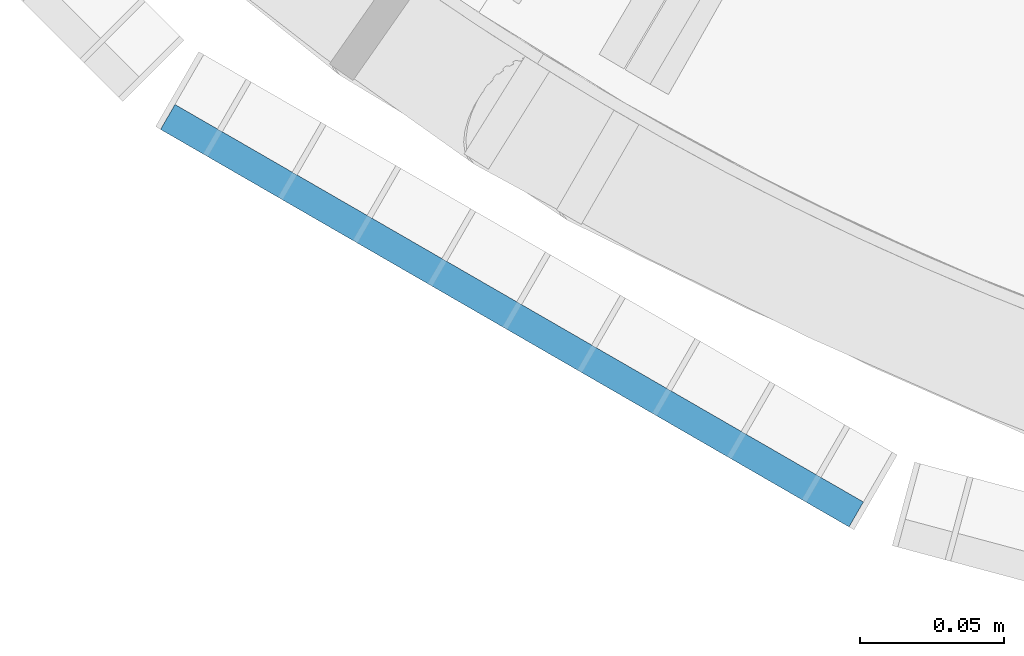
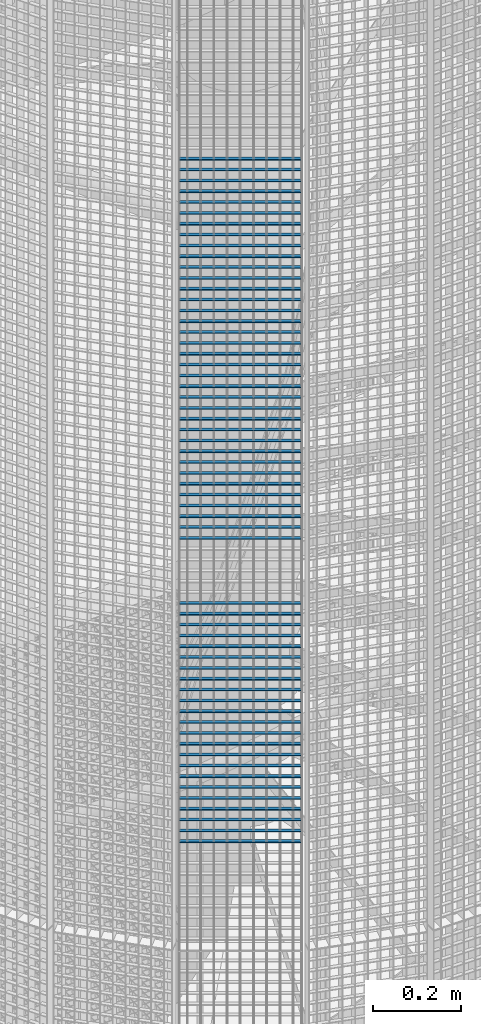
# One storey, part 147 of 1183: 59 beams, 1 element without a shape of its own.
"""IFC2X3 building model written with IfcOpenShell, lengths in millimetres."""

from ifc_helpers import new_model, si_unit, frame, origin_with_axes, origin_2d_with_axis, place, context, subcontext, project, spatial, rectangle, extrude, material, type_object, element, aggregate, save


model = new_model("IFC2X3")

# Units and contexts
model_context = context("Model", 3, precision=1e-05, world=origin_with_axes())
body_context = subcontext(model_context, "Body", "Model", "MODEL_VIEW")
ifc_project = project(units=[si_unit("LENGTHUNIT", "METRE", prefix="MILLI"), si_unit("AREAUNIT", "SQUARE_METRE"), si_unit("VOLUMEUNIT", "CUBIC_METRE"), si_unit("MASSUNIT", "GRAM", prefix="KILO"), si_unit("TIMEUNIT", "SECOND"), si_unit("PLANEANGLEUNIT", "RADIAN"), si_unit("SOLIDANGLEUNIT", "STERADIAN"), si_unit("THERMODYNAMICTEMPERATUREUNIT", "DEGREE_CELSIUS"), si_unit("LUMINOUSINTENSITYUNIT", "LUMEN")], contexts=[model_context])

# Site, building, storey
site_placement = place(None, origin_with_axes())
site = spatial("IfcSite", under=ifc_project, at=site_placement, Name="Undefined", CompositionType="ELEMENT")
building_placement = place(site_placement, origin_with_axes())
building = spatial("IfcBuilding", under=site, at=building_placement, Name="Undefined", CompositionType="ELEMENT")
storey_placement = place(building_placement, origin_with_axes())
storey = spatial("IfcBuildingStorey", under=building, at=storey_placement, Name="Undefined", CompositionType="ELEMENT", Elevation=0.0)

# Assembly, beams
assembly_placement = place(storey_placement, origin_with_axes())
assembly = element("IfcElementAssembly", 1, at=assembly_placement, inside=storey, Name="BORDURE", AssemblyPlace="NOTDEFINED", PredefinedType="NOTDEFINED")
ifc_material = material(Name="STEEL/S235JR")
beam_type = type_object("IfcBeamType", Name="PL2*10", PredefinedType="NOTDEFINED")
beam_1_placement = place(assembly_placement, frame((-676.248044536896, -895.303964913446, 14190.0), z_axis=(-0.49999999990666, -0.866025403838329, 0.0), x_axis=(0.866025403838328, -0.49999999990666, 0.0)))
beam_1 = element("IfcBeam", 2, at=beam_1_placement, type_object=beam_type, material=ifc_material, Name="ENTRETOISE", context=body_context, shape_type="SweptSolid", body=[
    extrude(rectangle(XDim=2.0, YDim=10.0, at=origin_2d_with_axis()), frame((275.999999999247, 9.09494701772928e-13, 1.53210777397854e-14), z_axis=(-1.0, 0.0, 0.0), x_axis=(0.0, -1.0, 0.0)), (0.0, 0.0, 1.0), 276.0),
])
beam_2_placement = place(assembly_placement, frame((-676.248044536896, -895.303964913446, 14160.0), z_axis=(-0.49999999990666, -0.866025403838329, 0.0), x_axis=(0.866025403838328, -0.49999999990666, 0.0)))
beam_2 = element("IfcBeam", 3, at=beam_2_placement, type_object=beam_type, material=ifc_material, Name="ENTRETOISE", context=body_context, shape_type="SweptSolid", body=[
    extrude(rectangle(XDim=2.0, YDim=10.0, at=origin_2d_with_axis()), frame((275.999999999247, 9.09494701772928e-13, 1.53210777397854e-14), z_axis=(-1.0, 0.0, 0.0), x_axis=(0.0, -1.0, 0.0)), (0.0, 0.0, 1.0), 276.0),
])
beam_3_placement = place(assembly_placement, frame((-676.248044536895, -895.303964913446, 14130.0), z_axis=(-0.49999999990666, -0.866025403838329, 0.0), x_axis=(0.866025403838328, -0.49999999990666, 0.0)))
beam_3 = element("IfcBeam", 4, at=beam_3_placement, type_object=beam_type, material=ifc_material, Name="ENTRETOISE", context=body_context, shape_type="SweptSolid", body=[
    extrude(rectangle(XDim=2.0, YDim=10.0, at=origin_2d_with_axis()), frame((275.999999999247, 9.09494701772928e-13, 1.53210777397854e-14), z_axis=(-1.0, 0.0, 0.0), x_axis=(0.0, -1.0, 0.0)), (0.0, 0.0, 1.0), 276.0),
])
beam_4_placement = place(assembly_placement, frame((-676.248044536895, -895.303964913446, 14100.0), z_axis=(-0.49999999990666, -0.866025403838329, 0.0), x_axis=(0.866025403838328, -0.49999999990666, 0.0)))
beam_4 = element("IfcBeam", 5, at=beam_4_placement, type_object=beam_type, material=ifc_material, Name="ENTRETOISE", context=body_context, shape_type="SweptSolid", body=[
    extrude(rectangle(XDim=2.0, YDim=10.0, at=origin_2d_with_axis()), frame((275.999999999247, 9.09494701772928e-13, 1.53210777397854e-14), z_axis=(-1.0, 0.0, 0.0), x_axis=(0.0, -1.0, 0.0)), (0.0, 0.0, 1.0), 276.0),
])
beam_5_placement = place(assembly_placement, frame((-676.248044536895, -895.303964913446, 14070.0), z_axis=(-0.49999999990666, -0.866025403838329, 0.0), x_axis=(0.866025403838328, -0.49999999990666, 0.0)))
beam_5 = element("IfcBeam", 6, at=beam_5_placement, type_object=beam_type, material=ifc_material, Name="ENTRETOISE", context=body_context, shape_type="SweptSolid", body=[
    extrude(rectangle(XDim=2.0, YDim=10.0, at=origin_2d_with_axis()), frame((275.999999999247, 9.09494701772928e-13, 1.53210777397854e-14), z_axis=(-1.0, 0.0, 0.0), x_axis=(0.0, -1.0, 0.0)), (0.0, 0.0, 1.0), 276.0),
])
beam_6_placement = place(assembly_placement, frame((-676.248044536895, -895.303964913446, 14040.0), z_axis=(-0.49999999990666, -0.866025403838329, 0.0), x_axis=(0.866025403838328, -0.49999999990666, 0.0)))
beam_6 = element("IfcBeam", 7, at=beam_6_placement, type_object=beam_type, material=ifc_material, Name="ENTRETOISE", context=body_context, shape_type="SweptSolid", body=[
    extrude(rectangle(XDim=2.0, YDim=10.0, at=origin_2d_with_axis()), frame((275.999999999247, 9.09494701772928e-13, 1.53210777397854e-14), z_axis=(-1.0, 0.0, 0.0), x_axis=(0.0, -1.0, 0.0)), (0.0, 0.0, 1.0), 276.0),
])
beam_7_placement = place(assembly_placement, frame((-676.248044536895, -895.303964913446, 14010.0), z_axis=(-0.49999999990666, -0.866025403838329, 0.0), x_axis=(0.866025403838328, -0.49999999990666, 0.0)))
beam_7 = element("IfcBeam", 8, at=beam_7_placement, type_object=beam_type, material=ifc_material, Name="ENTRETOISE", context=body_context, shape_type="SweptSolid", body=[
    extrude(rectangle(XDim=2.0, YDim=10.0, at=origin_2d_with_axis()), frame((275.999999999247, 9.09494701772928e-13, 1.53210777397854e-14), z_axis=(-1.0, 0.0, 0.0), x_axis=(0.0, -1.0, 0.0)), (0.0, 0.0, 1.0), 276.0),
])
beam_8_placement = place(assembly_placement, frame((-676.248044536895, -895.303964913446, 13980.0), z_axis=(-0.49999999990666, -0.866025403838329, 0.0), x_axis=(0.866025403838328, -0.49999999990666, 0.0)))
beam_8 = element("IfcBeam", 9, at=beam_8_placement, type_object=beam_type, material=ifc_material, Name="ENTRETOISE", context=body_context, shape_type="SweptSolid", body=[
    extrude(rectangle(XDim=2.0, YDim=10.0, at=origin_2d_with_axis()), frame((275.999999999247, 9.09494701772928e-13, 1.53210777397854e-14), z_axis=(-1.0, 0.0, 0.0), x_axis=(0.0, -1.0, 0.0)), (0.0, 0.0, 1.0), 276.0),
])
beam_9_placement = place(assembly_placement, frame((-676.248044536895, -895.303964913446, 13950.0), z_axis=(-0.49999999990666, -0.866025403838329, 0.0), x_axis=(0.866025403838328, -0.49999999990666, 0.0)))
beam_9 = element("IfcBeam", 10, at=beam_9_placement, type_object=beam_type, material=ifc_material, Name="ENTRETOISE", context=body_context, shape_type="SweptSolid", body=[
    extrude(rectangle(XDim=2.0, YDim=10.0, at=origin_2d_with_axis()), frame((275.999999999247, 9.09494701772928e-13, 1.53210777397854e-14), z_axis=(-1.0, 0.0, 0.0), x_axis=(0.0, -1.0, 0.0)), (0.0, 0.0, 1.0), 276.0),
])
beam_10_placement = place(assembly_placement, frame((-676.248044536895, -895.303964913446, 13920.0), z_axis=(-0.49999999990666, -0.866025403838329, 0.0), x_axis=(0.866025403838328, -0.49999999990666, 0.0)))
beam_10 = element("IfcBeam", 11, at=beam_10_placement, type_object=beam_type, material=ifc_material, Name="ENTRETOISE", context=body_context, shape_type="SweptSolid", body=[
    extrude(rectangle(XDim=2.0, YDim=10.0, at=origin_2d_with_axis()), frame((275.999999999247, 9.09494701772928e-13, 1.53210777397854e-14), z_axis=(-1.0, 0.0, 0.0), x_axis=(0.0, -1.0, 0.0)), (0.0, 0.0, 1.0), 276.0),
])
beam_11_placement = place(assembly_placement, frame((-676.248044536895, -895.303964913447, 13890.0), z_axis=(-0.49999999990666, -0.866025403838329, 0.0), x_axis=(0.866025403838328, -0.49999999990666, 0.0)))
beam_11 = element("IfcBeam", 12, at=beam_11_placement, type_object=beam_type, material=ifc_material, Name="ENTRETOISE", context=body_context, shape_type="SweptSolid", body=[
    extrude(rectangle(XDim=2.0, YDim=10.0, at=origin_2d_with_axis()), frame((275.999999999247, 9.09494701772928e-13, 1.53210777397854e-14), z_axis=(-1.0, 0.0, 0.0), x_axis=(0.0, -1.0, 0.0)), (0.0, 0.0, 1.0), 276.0),
])
beam_12_placement = place(assembly_placement, frame((-676.248044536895, -895.303964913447, 13860.0), z_axis=(-0.49999999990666, -0.866025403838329, 0.0), x_axis=(0.866025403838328, -0.49999999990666, 0.0)))
beam_12 = element("IfcBeam", 13, at=beam_12_placement, type_object=beam_type, material=ifc_material, Name="ENTRETOISE", context=body_context, shape_type="SweptSolid", body=[
    extrude(rectangle(XDim=2.0, YDim=10.0, at=origin_2d_with_axis()), frame((275.999999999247, 9.09494701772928e-13, 1.53210777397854e-14), z_axis=(-1.0, 0.0, 0.0), x_axis=(0.0, -1.0, 0.0)), (0.0, 0.0, 1.0), 276.0),
])
beam_13_placement = place(assembly_placement, frame((-676.248044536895, -895.303964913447, 13830.0), z_axis=(-0.49999999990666, -0.866025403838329, 0.0), x_axis=(0.866025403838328, -0.49999999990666, 0.0)))
beam_13 = element("IfcBeam", 14, at=beam_13_placement, type_object=beam_type, material=ifc_material, Name="ENTRETOISE", context=body_context, shape_type="SweptSolid", body=[
    extrude(rectangle(XDim=2.0, YDim=10.0, at=origin_2d_with_axis()), frame((275.999999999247, 9.09494701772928e-13, 1.53210777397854e-14), z_axis=(-1.0, 0.0, 0.0), x_axis=(0.0, -1.0, 0.0)), (0.0, 0.0, 1.0), 276.0),
])
beam_14_placement = place(assembly_placement, frame((-676.248044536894, -895.303964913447, 13800.0), z_axis=(-0.49999999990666, -0.866025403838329, 0.0), x_axis=(0.866025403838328, -0.49999999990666, 0.0)))
beam_14 = element("IfcBeam", 15, at=beam_14_placement, type_object=beam_type, material=ifc_material, Name="ENTRETOISE", context=body_context, shape_type="SweptSolid", body=[
    extrude(rectangle(XDim=2.0, YDim=10.0, at=origin_2d_with_axis()), frame((275.999999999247, 9.09494701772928e-13, 1.53210777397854e-14), z_axis=(-1.0, 0.0, 0.0), x_axis=(0.0, -1.0, 0.0)), (0.0, 0.0, 1.0), 276.0),
])
beam_15_placement = place(assembly_placement, frame((-676.248044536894, -895.303964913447, 13770.0), z_axis=(-0.49999999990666, -0.866025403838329, 0.0), x_axis=(0.866025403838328, -0.49999999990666, 0.0)))
beam_15 = element("IfcBeam", 16, at=beam_15_placement, type_object=beam_type, material=ifc_material, Name="ENTRETOISE", context=body_context, shape_type="SweptSolid", body=[
    extrude(rectangle(XDim=2.0, YDim=10.0, at=origin_2d_with_axis()), frame((275.999999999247, 9.09494701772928e-13, 1.53210777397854e-14), z_axis=(-1.0, 0.0, 0.0), x_axis=(0.0, -1.0, 0.0)), (0.0, 0.0, 1.0), 276.0),
])
beam_16_placement = place(assembly_placement, frame((-676.248044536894, -895.303964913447, 13740.0), z_axis=(-0.49999999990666, -0.866025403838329, 0.0), x_axis=(0.866025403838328, -0.49999999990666, 0.0)))
beam_16 = element("IfcBeam", 17, at=beam_16_placement, type_object=beam_type, material=ifc_material, Name="ENTRETOISE", context=body_context, shape_type="SweptSolid", body=[
    extrude(rectangle(XDim=2.0, YDim=10.0, at=origin_2d_with_axis()), frame((275.999999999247, 9.09494701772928e-13, 1.53210777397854e-14), z_axis=(-1.0, 0.0, 0.0), x_axis=(0.0, -1.0, 0.0)), (0.0, 0.0, 1.0), 276.0),
])
beam_17_placement = place(assembly_placement, frame((-676.248044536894, -895.303964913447, 13710.0), z_axis=(-0.49999999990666, -0.866025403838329, 0.0), x_axis=(0.866025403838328, -0.49999999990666, 0.0)))
beam_17 = element("IfcBeam", 18, at=beam_17_placement, type_object=beam_type, material=ifc_material, Name="ENTRETOISE", context=body_context, shape_type="SweptSolid", body=[
    extrude(rectangle(XDim=2.0, YDim=10.0, at=origin_2d_with_axis()), frame((275.999999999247, 9.09494701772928e-13, 1.53210777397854e-14), z_axis=(-1.0, 0.0, 0.0), x_axis=(0.0, -1.0, 0.0)), (0.0, 0.0, 1.0), 276.0),
])
beam_18_placement = place(assembly_placement, frame((-676.248044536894, -895.303964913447, 13680.0), z_axis=(-0.49999999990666, -0.866025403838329, 0.0), x_axis=(0.866025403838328, -0.49999999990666, 0.0)))
beam_18 = element("IfcBeam", 19, at=beam_18_placement, type_object=beam_type, material=ifc_material, Name="ENTRETOISE", context=body_context, shape_type="SweptSolid", body=[
    extrude(rectangle(XDim=2.0, YDim=10.0, at=origin_2d_with_axis()), frame((275.999999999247, 9.09494701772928e-13, 1.53210777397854e-14), z_axis=(-1.0, 0.0, 0.0), x_axis=(0.0, -1.0, 0.0)), (0.0, 0.0, 1.0), 276.0),
])
beam_19_placement = place(assembly_placement, frame((-676.248044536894, -895.303964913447, 13650.0), z_axis=(-0.49999999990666, -0.866025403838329, 0.0), x_axis=(0.866025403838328, -0.49999999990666, 0.0)))
beam_19 = element("IfcBeam", 20, at=beam_19_placement, type_object=beam_type, material=ifc_material, Name="ENTRETOISE", context=body_context, shape_type="SweptSolid", body=[
    extrude(rectangle(XDim=2.0, YDim=10.0, at=origin_2d_with_axis()), frame((275.999999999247, 9.09494701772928e-13, 1.53210777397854e-14), z_axis=(-1.0, 0.0, 0.0), x_axis=(0.0, -1.0, 0.0)), (0.0, 0.0, 1.0), 276.0),
])
beam_20_placement = place(assembly_placement, frame((-676.248044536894, -895.303964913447, 13620.0), z_axis=(-0.49999999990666, -0.866025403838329, 0.0), x_axis=(0.866025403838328, -0.49999999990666, 0.0)))
beam_20 = element("IfcBeam", 21, at=beam_20_placement, type_object=beam_type, material=ifc_material, Name="ENTRETOISE", context=body_context, shape_type="SweptSolid", body=[
    extrude(rectangle(XDim=2.0, YDim=10.0, at=origin_2d_with_axis()), frame((275.999999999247, 9.09494701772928e-13, 1.53210777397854e-14), z_axis=(-1.0, 0.0, 0.0), x_axis=(0.0, -1.0, 0.0)), (0.0, 0.0, 1.0), 276.0),
])
beam_21_placement = place(assembly_placement, frame((-676.248044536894, -895.303964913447, 13590.0), z_axis=(-0.49999999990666, -0.866025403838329, 0.0), x_axis=(0.866025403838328, -0.49999999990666, 0.0)))
beam_21 = element("IfcBeam", 22, at=beam_21_placement, type_object=beam_type, material=ifc_material, Name="ENTRETOISE", context=body_context, shape_type="SweptSolid", body=[
    extrude(rectangle(XDim=2.0, YDim=10.0, at=origin_2d_with_axis()), frame((275.999999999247, 9.09494701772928e-13, 1.53210777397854e-14), z_axis=(-1.0, 0.0, 0.0), x_axis=(0.0, -1.0, 0.0)), (0.0, 0.0, 1.0), 276.0),
])
beam_22_placement = place(assembly_placement, frame((-676.248044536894, -895.303964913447, 13560.0), z_axis=(-0.49999999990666, -0.866025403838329, 0.0), x_axis=(0.866025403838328, -0.49999999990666, 0.0)))
beam_22 = element("IfcBeam", 23, at=beam_22_placement, type_object=beam_type, material=ifc_material, Name="ENTRETOISE", context=body_context, shape_type="SweptSolid", body=[
    extrude(rectangle(XDim=2.0, YDim=10.0, at=origin_2d_with_axis()), frame((275.999999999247, 9.09494701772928e-13, 1.53210777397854e-14), z_axis=(-1.0, 0.0, 0.0), x_axis=(0.0, -1.0, 0.0)), (0.0, 0.0, 1.0), 276.0),
])
beam_23_placement = place(assembly_placement, frame((-676.248044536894, -895.303964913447, 13530.0), z_axis=(-0.49999999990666, -0.866025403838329, 0.0), x_axis=(0.866025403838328, -0.49999999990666, 0.0)))
beam_23 = element("IfcBeam", 24, at=beam_23_placement, type_object=beam_type, material=ifc_material, Name="ENTRETOISE", context=body_context, shape_type="SweptSolid", body=[
    extrude(rectangle(XDim=2.0, YDim=10.0, at=origin_2d_with_axis()), frame((275.999999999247, 9.09494701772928e-13, 1.53210777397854e-14), z_axis=(-1.0, 0.0, 0.0), x_axis=(0.0, -1.0, 0.0)), (0.0, 0.0, 1.0), 276.0),
])
beam_24_placement = place(assembly_placement, frame((-676.248044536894, -895.303964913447, 13500.0), z_axis=(-0.49999999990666, -0.866025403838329, 0.0), x_axis=(0.866025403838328, -0.49999999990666, 0.0)))
beam_24 = element("IfcBeam", 25, at=beam_24_placement, type_object=beam_type, material=ifc_material, Name="ENTRETOISE", context=body_context, shape_type="SweptSolid", body=[
    extrude(rectangle(XDim=2.0, YDim=10.0, at=origin_2d_with_axis()), frame((275.999999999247, 9.09494701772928e-13, 1.53210777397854e-14), z_axis=(-1.0, 0.0, 0.0), x_axis=(0.0, -1.0, 0.0)), (0.0, 0.0, 1.0), 276.0),
])
beam_25_placement = place(assembly_placement, frame((-676.248044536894, -895.303964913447, 13470.0), z_axis=(-0.49999999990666, -0.866025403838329, 0.0), x_axis=(0.866025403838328, -0.49999999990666, 0.0)))
beam_25 = element("IfcBeam", 26, at=beam_25_placement, type_object=beam_type, material=ifc_material, Name="ENTRETOISE", context=body_context, shape_type="SweptSolid", body=[
    extrude(rectangle(XDim=2.0, YDim=10.0, at=origin_2d_with_axis()), frame((275.999999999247, 9.09494701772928e-13, 1.53210777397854e-14), z_axis=(-1.0, 0.0, 0.0), x_axis=(0.0, -1.0, 0.0)), (0.0, 0.0, 1.0), 276.0),
])
beam_26_placement = place(assembly_placement, frame((-676.248044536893, -895.303964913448, 13440.0), z_axis=(-0.49999999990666, -0.866025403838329, 0.0), x_axis=(0.866025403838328, -0.49999999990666, 0.0)))
beam_26 = element("IfcBeam", 27, at=beam_26_placement, type_object=beam_type, material=ifc_material, Name="ENTRETOISE", context=body_context, shape_type="SweptSolid", body=[
    extrude(rectangle(XDim=2.0, YDim=10.0, at=origin_2d_with_axis()), frame((275.999999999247, 9.09494701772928e-13, 1.53210777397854e-14), z_axis=(-1.0, 0.0, 0.0), x_axis=(0.0, -1.0, 0.0)), (0.0, 0.0, 1.0), 276.0),
])
beam_27_placement = place(assembly_placement, frame((-676.248044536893, -895.303964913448, 13410.0), z_axis=(-0.49999999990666, -0.866025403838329, 0.0), x_axis=(0.866025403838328, -0.49999999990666, 0.0)))
beam_27 = element("IfcBeam", 28, at=beam_27_placement, type_object=beam_type, material=ifc_material, Name="ENTRETOISE", context=body_context, shape_type="SweptSolid", body=[
    extrude(rectangle(XDim=2.0, YDim=10.0, at=origin_2d_with_axis()), frame((275.999999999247, 9.09494701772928e-13, 1.53210777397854e-14), z_axis=(-1.0, 0.0, 0.0), x_axis=(0.0, -1.0, 0.0)), (0.0, 0.0, 1.0), 276.0),
])
beam_28_placement = place(assembly_placement, frame((-676.248044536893, -895.303964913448, 13380.0), z_axis=(-0.49999999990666, -0.866025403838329, 0.0), x_axis=(0.866025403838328, -0.49999999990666, 0.0)))
beam_28 = element("IfcBeam", 29, at=beam_28_placement, type_object=beam_type, material=ifc_material, Name="ENTRETOISE", context=body_context, shape_type="SweptSolid", body=[
    extrude(rectangle(XDim=2.0, YDim=10.0, at=origin_2d_with_axis()), frame((275.999999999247, 9.09494701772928e-13, 1.53210777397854e-14), z_axis=(-1.0, 0.0, 0.0), x_axis=(0.0, -1.0, 0.0)), (0.0, 0.0, 1.0), 276.0),
])
beam_29_placement = place(assembly_placement, frame((-676.248044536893, -895.303964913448, 13350.0), z_axis=(-0.49999999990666, -0.866025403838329, 0.0), x_axis=(0.866025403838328, -0.49999999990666, 0.0)))
beam_29 = element("IfcBeam", 30, at=beam_29_placement, type_object=beam_type, material=ifc_material, Name="ENTRETOISE", context=body_context, shape_type="SweptSolid", body=[
    extrude(rectangle(XDim=2.0, YDim=10.0, at=origin_2d_with_axis()), frame((275.999999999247, 9.09494701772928e-13, 1.53210777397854e-14), z_axis=(-1.0, 0.0, 0.0), x_axis=(0.0, -1.0, 0.0)), (0.0, 0.0, 1.0), 276.0),
])
beam_30_placement = place(assembly_placement, frame((-676.248044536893, -895.303964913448, 13320.0), z_axis=(-0.49999999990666, -0.866025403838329, 0.0), x_axis=(0.866025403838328, -0.49999999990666, 0.0)))
beam_30 = element("IfcBeam", 31, at=beam_30_placement, type_object=beam_type, material=ifc_material, Name="ENTRETOISE", context=body_context, shape_type="SweptSolid", body=[
    extrude(rectangle(XDim=2.0, YDim=10.0, at=origin_2d_with_axis()), frame((275.999999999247, 9.09494701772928e-13, 1.53210777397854e-14), z_axis=(-1.0, 0.0, 0.0), x_axis=(0.0, -1.0, 0.0)), (0.0, 0.0, 1.0), 276.0),
])
beam_31_placement = place(assembly_placement, frame((-676.248044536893, -895.303964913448, 13290.0), z_axis=(-0.49999999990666, -0.866025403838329, 0.0), x_axis=(0.866025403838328, -0.49999999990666, 0.0)))
beam_31 = element("IfcBeam", 32, at=beam_31_placement, type_object=beam_type, material=ifc_material, Name="ENTRETOISE", context=body_context, shape_type="SweptSolid", body=[
    extrude(rectangle(XDim=2.0, YDim=10.0, at=origin_2d_with_axis()), frame((275.999999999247, 9.09494701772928e-13, 1.53210777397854e-14), z_axis=(-1.0, 0.0, 0.0), x_axis=(0.0, -1.0, 0.0)), (0.0, 0.0, 1.0), 276.0),
])
beam_32_placement = place(assembly_placement, frame((-676.248044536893, -895.303964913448, 13260.0), z_axis=(-0.49999999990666, -0.866025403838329, 0.0), x_axis=(0.866025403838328, -0.49999999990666, 0.0)))
beam_32 = element("IfcBeam", 33, at=beam_32_placement, type_object=beam_type, material=ifc_material, Name="ENTRETOISE", context=body_context, shape_type="SweptSolid", body=[
    extrude(rectangle(XDim=2.0, YDim=10.0, at=origin_2d_with_axis()), frame((275.999999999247, 9.09494701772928e-13, 1.53210777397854e-14), z_axis=(-1.0, 0.0, 0.0), x_axis=(0.0, -1.0, 0.0)), (0.0, 0.0, 1.0), 276.0),
])
beam_33_placement = place(assembly_placement, frame((-676.248044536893, -895.303964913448, 13230.0), z_axis=(-0.49999999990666, -0.866025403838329, 0.0), x_axis=(0.866025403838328, -0.49999999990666, 0.0)))
beam_33 = element("IfcBeam", 34, at=beam_33_placement, type_object=beam_type, material=ifc_material, Name="ENTRETOISE", context=body_context, shape_type="SweptSolid", body=[
    extrude(rectangle(XDim=2.0, YDim=10.0, at=origin_2d_with_axis()), frame((275.999999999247, 9.09494701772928e-13, 1.53210777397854e-14), z_axis=(-1.0, 0.0, 0.0), x_axis=(0.0, -1.0, 0.0)), (0.0, 0.0, 1.0), 276.0),
])
beam_34_placement = place(assembly_placement, frame((-676.248044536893, -895.303964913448, 13200.0), z_axis=(-0.49999999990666, -0.866025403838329, 0.0), x_axis=(0.866025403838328, -0.49999999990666, 0.0)))
beam_34 = element("IfcBeam", 35, at=beam_34_placement, type_object=beam_type, material=ifc_material, Name="ENTRETOISE", context=body_context, shape_type="SweptSolid", body=[
    extrude(rectangle(XDim=2.0, YDim=10.0, at=origin_2d_with_axis()), frame((275.999999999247, 9.09494701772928e-13, 1.53210777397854e-14), z_axis=(-1.0, 0.0, 0.0), x_axis=(0.0, -1.0, 0.0)), (0.0, 0.0, 1.0), 276.0),
])
beam_35_placement = place(assembly_placement, frame((-676.248044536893, -895.303964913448, 13170.0), z_axis=(-0.49999999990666, -0.866025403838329, 0.0), x_axis=(0.866025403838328, -0.49999999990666, 0.0)))
beam_35 = element("IfcBeam", 36, at=beam_35_placement, type_object=beam_type, material=ifc_material, Name="ENTRETOISE", context=body_context, shape_type="SweptSolid", body=[
    extrude(rectangle(XDim=2.0, YDim=10.0, at=origin_2d_with_axis()), frame((275.999999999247, 9.09494701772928e-13, 1.53210777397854e-14), z_axis=(-1.0, 0.0, 0.0), x_axis=(0.0, -1.0, 0.0)), (0.0, 0.0, 1.0), 276.0),
])
beam_36_placement = place(assembly_placement, frame((-676.248044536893, -895.303964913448, 13140.0), z_axis=(-0.49999999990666, -0.866025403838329, 0.0), x_axis=(0.866025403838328, -0.49999999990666, 0.0)))
beam_36 = element("IfcBeam", 37, at=beam_36_placement, type_object=beam_type, material=ifc_material, Name="ENTRETOISE", context=body_context, shape_type="SweptSolid", body=[
    extrude(rectangle(XDim=2.0, YDim=10.0, at=origin_2d_with_axis()), frame((275.999999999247, 9.09494701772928e-13, 1.53210777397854e-14), z_axis=(-1.0, 0.0, 0.0), x_axis=(0.0, -1.0, 0.0)), (0.0, 0.0, 1.0), 276.0),
])
beam_37_placement = place(assembly_placement, frame((-676.248044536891, -895.303964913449, 12720.0), z_axis=(-0.49999999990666, -0.866025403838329, 0.0), x_axis=(0.866025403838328, -0.49999999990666, 0.0)))
beam_37 = element("IfcBeam", 38, at=beam_37_placement, type_object=beam_type, material=ifc_material, Name="ENTRETOISE", context=body_context, shape_type="SweptSolid", body=[
    extrude(rectangle(XDim=2.0, YDim=10.0, at=origin_2d_with_axis()), frame((275.999999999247, 9.09494701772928e-13, 1.53210777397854e-14), z_axis=(-1.0, 0.0, 0.0), x_axis=(0.0, -1.0, 0.0)), (0.0, 0.0, 1.0), 276.0),
])
beam_38_placement = place(assembly_placement, frame((-676.248044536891, -895.303964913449, 12690.0), z_axis=(-0.49999999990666, -0.866025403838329, 0.0), x_axis=(0.866025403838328, -0.49999999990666, 0.0)))
beam_38 = element("IfcBeam", 39, at=beam_38_placement, type_object=beam_type, material=ifc_material, Name="ENTRETOISE", context=body_context, shape_type="SweptSolid", body=[
    extrude(rectangle(XDim=2.0, YDim=10.0, at=origin_2d_with_axis()), frame((275.999999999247, 9.09494701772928e-13, 1.53210777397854e-14), z_axis=(-1.0, 0.0, 0.0), x_axis=(0.0, -1.0, 0.0)), (0.0, 0.0, 1.0), 276.0),
])
beam_39_placement = place(assembly_placement, frame((-676.248044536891, -895.303964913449, 12750.0), z_axis=(-0.49999999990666, -0.866025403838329, 0.0), x_axis=(0.866025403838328, -0.49999999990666, 0.0)))
beam_39 = element("IfcBeam", 40, at=beam_39_placement, type_object=beam_type, material=ifc_material, Name="ENTRETOISE", context=body_context, shape_type="SweptSolid", body=[
    extrude(rectangle(XDim=2.0, YDim=10.0, at=origin_2d_with_axis()), frame((275.999999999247, 9.09494701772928e-13, 1.53210777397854e-14), z_axis=(-1.0, 0.0, 0.0), x_axis=(0.0, -1.0, 0.0)), (0.0, 0.0, 1.0), 276.0),
])
beam_40_placement = place(assembly_placement, frame((-676.248044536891, -895.303964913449, 12660.0), z_axis=(-0.49999999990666, -0.866025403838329, 0.0), x_axis=(0.866025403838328, -0.49999999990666, 0.0)))
beam_40 = element("IfcBeam", 41, at=beam_40_placement, type_object=beam_type, material=ifc_material, Name="ENTRETOISE", context=body_context, shape_type="SweptSolid", body=[
    extrude(rectangle(XDim=2.0, YDim=10.0, at=origin_2d_with_axis()), frame((275.999999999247, 9.09494701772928e-13, 1.53210777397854e-14), z_axis=(-1.0, 0.0, 0.0), x_axis=(0.0, -1.0, 0.0)), (0.0, 0.0, 1.0), 276.0),
])
beam_41_placement = place(assembly_placement, frame((-676.248044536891, -895.303964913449, 12630.0), z_axis=(-0.49999999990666, -0.866025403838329, 0.0), x_axis=(0.866025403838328, -0.49999999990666, 0.0)))
beam_41 = element("IfcBeam", 42, at=beam_41_placement, type_object=beam_type, material=ifc_material, Name="ENTRETOISE", context=body_context, shape_type="SweptSolid", body=[
    extrude(rectangle(XDim=2.0, YDim=10.0, at=origin_2d_with_axis()), frame((275.999999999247, 9.09494701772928e-13, 1.53210777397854e-14), z_axis=(-1.0, 0.0, 0.0), x_axis=(0.0, -1.0, 0.0)), (0.0, 0.0, 1.0), 276.0),
])
beam_42_placement = place(assembly_placement, frame((-676.248044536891, -895.303964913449, 12780.0), z_axis=(-0.49999999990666, -0.866025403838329, 0.0), x_axis=(0.866025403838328, -0.49999999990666, 0.0)))
beam_42 = element("IfcBeam", 43, at=beam_42_placement, type_object=beam_type, material=ifc_material, Name="ENTRETOISE", context=body_context, shape_type="SweptSolid", body=[
    extrude(rectangle(XDim=2.0, YDim=10.0, at=origin_2d_with_axis()), frame((275.999999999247, 9.09494701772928e-13, 1.53210777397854e-14), z_axis=(-1.0, 0.0, 0.0), x_axis=(0.0, -1.0, 0.0)), (0.0, 0.0, 1.0), 276.0),
])
beam_43_placement = place(assembly_placement, frame((-676.248044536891, -895.30396491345, 12600.0), z_axis=(-0.49999999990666, -0.866025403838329, 0.0), x_axis=(0.866025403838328, -0.49999999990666, 0.0)))
beam_43 = element("IfcBeam", 44, at=beam_43_placement, type_object=beam_type, material=ifc_material, Name="ENTRETOISE", context=body_context, shape_type="SweptSolid", body=[
    extrude(rectangle(XDim=2.0, YDim=10.0, at=origin_2d_with_axis()), frame((275.999999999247, 9.09494701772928e-13, 1.53210777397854e-14), z_axis=(-1.0, 0.0, 0.0), x_axis=(0.0, -1.0, 0.0)), (0.0, 0.0, 1.0), 276.0),
])
beam_44_placement = place(assembly_placement, frame((-676.248044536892, -895.303964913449, 12810.0), z_axis=(-0.49999999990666, -0.866025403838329, 0.0), x_axis=(0.866025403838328, -0.49999999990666, 0.0)))
beam_44 = element("IfcBeam", 45, at=beam_44_placement, type_object=beam_type, material=ifc_material, Name="ENTRETOISE", context=body_context, shape_type="SweptSolid", body=[
    extrude(rectangle(XDim=2.0, YDim=10.0, at=origin_2d_with_axis()), frame((275.999999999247, 9.09494701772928e-13, 1.53210777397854e-14), z_axis=(-1.0, 0.0, 0.0), x_axis=(0.0, -1.0, 0.0)), (0.0, 0.0, 1.0), 276.0),
])
beam_45_placement = place(assembly_placement, frame((-676.248044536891, -895.30396491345, 12570.0), z_axis=(-0.49999999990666, -0.866025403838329, 0.0), x_axis=(0.866025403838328, -0.49999999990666, 0.0)))
beam_45 = element("IfcBeam", 46, at=beam_45_placement, type_object=beam_type, material=ifc_material, Name="ENTRETOISE", context=body_context, shape_type="SweptSolid", body=[
    extrude(rectangle(XDim=2.0, YDim=10.0, at=origin_2d_with_axis()), frame((275.999999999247, 9.09494701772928e-13, 1.53210777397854e-14), z_axis=(-1.0, 0.0, 0.0), x_axis=(0.0, -1.0, 0.0)), (0.0, 0.0, 1.0), 276.0),
])
beam_46_placement = place(assembly_placement, frame((-676.248044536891, -895.30396491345, 12540.0), z_axis=(-0.49999999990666, -0.866025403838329, 0.0), x_axis=(0.866025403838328, -0.49999999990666, 0.0)))
beam_46 = element("IfcBeam", 47, at=beam_46_placement, type_object=beam_type, material=ifc_material, Name="ENTRETOISE", context=body_context, shape_type="SweptSolid", body=[
    extrude(rectangle(XDim=2.0, YDim=10.0, at=origin_2d_with_axis()), frame((275.999999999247, 9.09494701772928e-13, 1.53210777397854e-14), z_axis=(-1.0, 0.0, 0.0), x_axis=(0.0, -1.0, 0.0)), (0.0, 0.0, 1.0), 276.0),
])
beam_47_placement = place(assembly_placement, frame((-676.248044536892, -895.303964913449, 12840.0), z_axis=(-0.49999999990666, -0.866025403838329, 0.0), x_axis=(0.866025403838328, -0.49999999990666, 0.0)))
beam_47 = element("IfcBeam", 48, at=beam_47_placement, type_object=beam_type, material=ifc_material, Name="ENTRETOISE", context=body_context, shape_type="SweptSolid", body=[
    extrude(rectangle(XDim=2.0, YDim=10.0, at=origin_2d_with_axis()), frame((275.999999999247, 9.09494701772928e-13, 1.53210777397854e-14), z_axis=(-1.0, 0.0, 0.0), x_axis=(0.0, -1.0, 0.0)), (0.0, 0.0, 1.0), 276.0),
])
beam_48_placement = place(assembly_placement, frame((-676.248044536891, -895.303964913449, 12510.0), z_axis=(-0.49999999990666, -0.866025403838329, 0.0), x_axis=(0.866025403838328, -0.49999999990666, 0.0)))
beam_48 = element("IfcBeam", 49, at=beam_48_placement, type_object=beam_type, material=ifc_material, Name="ENTRETOISE", context=body_context, shape_type="SweptSolid", body=[
    extrude(rectangle(XDim=2.0, YDim=10.0, at=origin_2d_with_axis()), frame((275.999999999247, 9.09494701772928e-13, 1.53210777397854e-14), z_axis=(-1.0, 0.0, 0.0), x_axis=(0.0, -1.0, 0.0)), (0.0, 0.0, 1.0), 276.0),
])
beam_49_placement = place(assembly_placement, frame((-676.248044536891, -895.303964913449, 12480.0), z_axis=(-0.49999999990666, -0.866025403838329, 0.0), x_axis=(0.866025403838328, -0.49999999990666, 0.0)))
beam_49 = element("IfcBeam", 50, at=beam_49_placement, type_object=beam_type, material=ifc_material, Name="ENTRETOISE", context=body_context, shape_type="SweptSolid", body=[
    extrude(rectangle(XDim=2.0, YDim=10.0, at=origin_2d_with_axis()), frame((275.999999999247, 9.09494701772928e-13, 1.53210777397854e-14), z_axis=(-1.0, 0.0, 0.0), x_axis=(0.0, -1.0, 0.0)), (0.0, 0.0, 1.0), 276.0),
])
beam_50_placement = place(assembly_placement, frame((-676.248044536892, -895.303964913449, 12870.0), z_axis=(-0.49999999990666, -0.866025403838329, 0.0), x_axis=(0.866025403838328, -0.49999999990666, 0.0)))
beam_50 = element("IfcBeam", 51, at=beam_50_placement, type_object=beam_type, material=ifc_material, Name="ENTRETOISE", context=body_context, shape_type="SweptSolid", body=[
    extrude(rectangle(XDim=2.0, YDim=10.0, at=origin_2d_with_axis()), frame((275.999999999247, 9.09494701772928e-13, 1.53210777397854e-14), z_axis=(-1.0, 0.0, 0.0), x_axis=(0.0, -1.0, 0.0)), (0.0, 0.0, 1.0), 276.0),
])
beam_51_placement = place(assembly_placement, frame((-676.248044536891, -895.30396491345, 12450.0), z_axis=(-0.49999999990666, -0.866025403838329, 0.0), x_axis=(0.866025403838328, -0.49999999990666, 0.0)))
beam_51 = element("IfcBeam", 52, at=beam_51_placement, type_object=beam_type, material=ifc_material, Name="ENTRETOISE", context=body_context, shape_type="SweptSolid", body=[
    extrude(rectangle(XDim=2.0, YDim=10.0, at=origin_2d_with_axis()), frame((275.999999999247, 9.09494701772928e-13, 1.53210777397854e-14), z_axis=(-1.0, 0.0, 0.0), x_axis=(0.0, -1.0, 0.0)), (0.0, 0.0, 1.0), 276.0),
])
beam_52_placement = place(assembly_placement, frame((-676.24804453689, -895.30396491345, 12420.0), z_axis=(-0.49999999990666, -0.866025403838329, 0.0), x_axis=(0.866025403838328, -0.49999999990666, 0.0)))
beam_52 = element("IfcBeam", 53, at=beam_52_placement, type_object=beam_type, material=ifc_material, Name="ENTRETOISE", context=body_context, shape_type="SweptSolid", body=[
    extrude(rectangle(XDim=2.0, YDim=10.0, at=origin_2d_with_axis()), frame((275.999999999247, 9.09494701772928e-13, 1.53210777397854e-14), z_axis=(-1.0, 0.0, 0.0), x_axis=(0.0, -1.0, 0.0)), (0.0, 0.0, 1.0), 276.0),
])
beam_53_placement = place(assembly_placement, frame((-676.248044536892, -895.303964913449, 12900.0), z_axis=(-0.49999999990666, -0.866025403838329, 0.0), x_axis=(0.866025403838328, -0.49999999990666, 0.0)))
beam_53 = element("IfcBeam", 54, at=beam_53_placement, type_object=beam_type, material=ifc_material, Name="ENTRETOISE", context=body_context, shape_type="SweptSolid", body=[
    extrude(rectangle(XDim=2.0, YDim=10.0, at=origin_2d_with_axis()), frame((275.999999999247, 9.09494701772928e-13, 1.53210777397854e-14), z_axis=(-1.0, 0.0, 0.0), x_axis=(0.0, -1.0, 0.0)), (0.0, 0.0, 1.0), 276.0),
])
beam_54_placement = place(assembly_placement, frame((-676.24804453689, -895.30396491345, 12390.0), z_axis=(-0.49999999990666, -0.866025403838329, 0.0), x_axis=(0.866025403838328, -0.49999999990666, 0.0)))
beam_54 = element("IfcBeam", 55, at=beam_54_placement, type_object=beam_type, material=ifc_material, Name="ENTRETOISE", context=body_context, shape_type="SweptSolid", body=[
    extrude(rectangle(XDim=2.0, YDim=10.0, at=origin_2d_with_axis()), frame((275.999999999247, 9.09494701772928e-13, 1.53210777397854e-14), z_axis=(-1.0, 0.0, 0.0), x_axis=(0.0, -1.0, 0.0)), (0.0, 0.0, 1.0), 276.0),
])
beam_55_placement = place(assembly_placement, frame((-676.248044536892, -895.303964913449, 12930.0), z_axis=(-0.49999999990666, -0.866025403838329, 0.0), x_axis=(0.866025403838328, -0.49999999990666, 0.0)))
beam_55 = element("IfcBeam", 56, at=beam_55_placement, type_object=beam_type, material=ifc_material, Name="ENTRETOISE", context=body_context, shape_type="SweptSolid", body=[
    extrude(rectangle(XDim=2.0, YDim=10.0, at=origin_2d_with_axis()), frame((275.999999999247, 9.09494701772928e-13, 1.53210777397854e-14), z_axis=(-1.0, 0.0, 0.0), x_axis=(0.0, -1.0, 0.0)), (0.0, 0.0, 1.0), 276.0),
])
beam_56_placement = place(assembly_placement, frame((-676.24804453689, -895.30396491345, 12360.0), z_axis=(-0.49999999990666, -0.866025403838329, 0.0), x_axis=(0.866025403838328, -0.49999999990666, 0.0)))
beam_56 = element("IfcBeam", 57, at=beam_56_placement, type_object=beam_type, material=ifc_material, Name="ENTRETOISE", context=body_context, shape_type="SweptSolid", body=[
    extrude(rectangle(XDim=2.0, YDim=10.0, at=origin_2d_with_axis()), frame((275.999999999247, 9.09494701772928e-13, 1.53210777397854e-14), z_axis=(-1.0, 0.0, 0.0), x_axis=(0.0, -1.0, 0.0)), (0.0, 0.0, 1.0), 276.0),
])
beam_57_placement = place(assembly_placement, frame((-676.24804453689, -895.30396491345, 12330.0), z_axis=(-0.49999999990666, -0.866025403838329, 0.0), x_axis=(0.866025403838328, -0.49999999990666, 0.0)))
beam_57 = element("IfcBeam", 58, at=beam_57_placement, type_object=beam_type, material=ifc_material, Name="ENTRETOISE", context=body_context, shape_type="SweptSolid", body=[
    extrude(rectangle(XDim=2.0, YDim=10.0, at=origin_2d_with_axis()), frame((275.999999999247, 9.09494701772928e-13, 1.53210777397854e-14), z_axis=(-1.0, 0.0, 0.0), x_axis=(0.0, -1.0, 0.0)), (0.0, 0.0, 1.0), 276.0),
])
beam_58_placement = place(assembly_placement, frame((-676.248044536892, -895.303964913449, 12960.0), z_axis=(-0.49999999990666, -0.866025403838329, 0.0), x_axis=(0.866025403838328, -0.49999999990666, 0.0)))
beam_58 = element("IfcBeam", 59, at=beam_58_placement, type_object=beam_type, material=ifc_material, Name="ENTRETOISE", context=body_context, shape_type="SweptSolid", body=[
    extrude(rectangle(XDim=2.0, YDim=10.0, at=origin_2d_with_axis()), frame((275.999999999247, 9.09494701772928e-13, 1.53210777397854e-14), z_axis=(-1.0, 0.0, 0.0), x_axis=(0.0, -1.0, 0.0)), (0.0, 0.0, 1.0), 276.0),
])
beam_59_placement = place(assembly_placement, frame((-676.24804453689, -895.30396491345, 12300.0), z_axis=(-0.49999999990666, -0.866025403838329, 0.0), x_axis=(0.866025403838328, -0.49999999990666, 0.0)))
beam_59 = element("IfcBeam", 60, at=beam_59_placement, type_object=beam_type, material=ifc_material, Name="ENTRETOISE", context=body_context, shape_type="SweptSolid", body=[
    extrude(rectangle(XDim=2.0, YDim=10.0, at=origin_2d_with_axis()), frame((275.999999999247, 9.09494701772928e-13, 1.53210777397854e-14), z_axis=(-1.0, 0.0, 0.0), x_axis=(0.0, -1.0, 0.0)), (0.0, 0.0, 1.0), 276.0),
])
aggregate(assembly, [beam_1, beam_2, beam_3, beam_4, beam_5, beam_6, beam_7, beam_8, beam_9, beam_10, beam_11, beam_12, beam_13, beam_14, beam_15, beam_16, beam_17, beam_18, beam_19, beam_20, beam_21, beam_22, beam_23, beam_24, beam_25, beam_26, beam_27, beam_28, beam_29, beam_30, beam_31, beam_32, beam_33, beam_34, beam_35, beam_36, beam_37, beam_38, beam_39, beam_40, beam_41, beam_42, beam_43, beam_44, beam_45, beam_46, beam_47, beam_48, beam_49, beam_50, beam_51, beam_52, beam_53, beam_54, beam_55, beam_56, beam_57, beam_58, beam_59])

save(model, "model.ifc")
